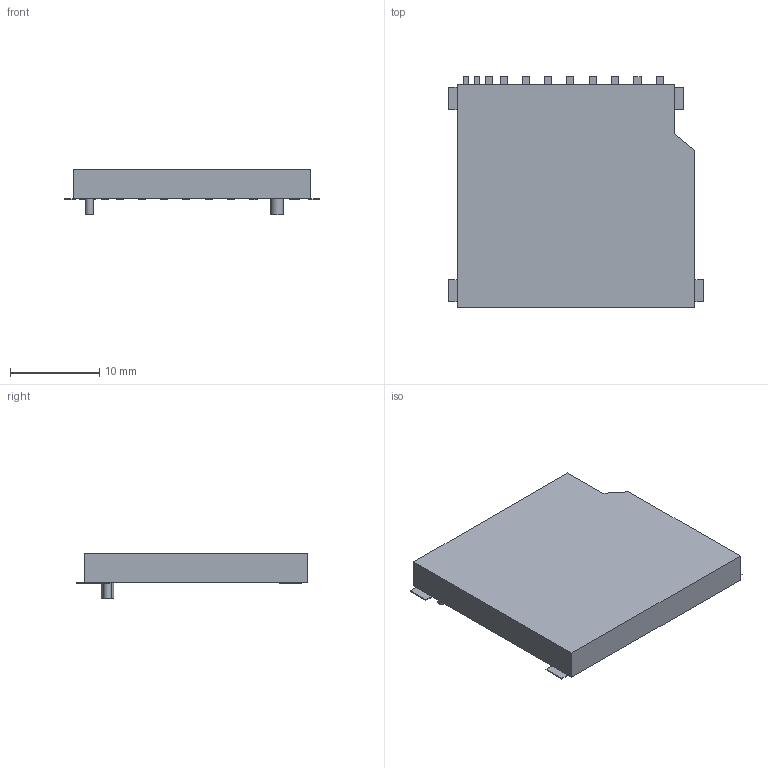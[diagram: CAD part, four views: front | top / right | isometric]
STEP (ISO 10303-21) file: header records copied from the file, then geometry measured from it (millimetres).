
FILE_DESCRIPTION(('FreeCAD Model'),'2;1');
FILE_NAME('/var/www/3D/0T/833808.1.2.stp','2020-04-09T12:52:34',( 'Author'),(''),'Open CASCADE STEP processor 6.9','FreeCAD','Unknown' );
FILE_SCHEMA(('AUTOMOTIVE_DESIGN { 1 0 10303 214 1 1 1 1 }'));
Length unit declared in the file: millimetre
Products named in the file (4): ASSEMBLY; Body; Pins; Lugs
Assembly tree (4 placements, depth 2):
  ASSEMBLY
    Body
    Pins
    Lugs  x2
Bounding box: 28.5 x 25.88 x 5.1 mm (x, y, z)
Volume: 2156.4 mm3; surface area: 1725.4 mm2
Topology: 20 solids, 20 shells, 110 faces, 210 edges, 140 vertices
Faces by surface type: plane 106, cylinder 4
Full cylindrical faces by diameter (mm): 0.9 x2, 1.4 x2
Entity records: 5469 total; most frequent: CARTESIAN_POINT 857, DIRECTION 834, LINE 604, VECTOR 604, ORIENTED_EDGE 408, PCURVE 408, DEFINITIONAL_REPRESENTATION 408, EDGE_CURVE 204
